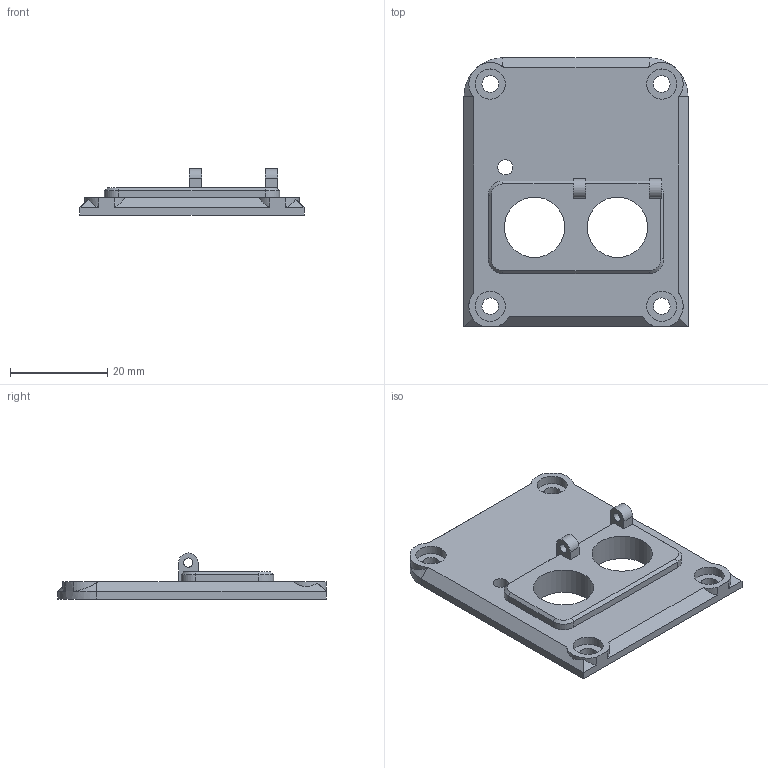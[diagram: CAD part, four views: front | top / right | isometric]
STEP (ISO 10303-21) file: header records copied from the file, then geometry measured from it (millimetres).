
FILE_DESCRIPTION(('Open CASCADE Model'),'2;1');
FILE_NAME('Open CASCADE Shape Model','2026-10-09T15:33:12',('Author'),( 'Open CASCADE'),'Open CASCADE STEP processor 7.9','Open CASCADE 7.9' ,'Unknown');
FILE_SCHEMA(('AUTOMOTIVE_DESIGN { 1 0 10303 214 1 1 1 1 }'));
Length unit declared in the file: millimetre
Products named in the file (1): Open CASCADE STEP translator 7.9 2
Bounding box: 46 x 55.1 x 9.5 mm (x, y, z)
Volume: 8382.1 mm3; surface area: 6050.4 mm2
Topology: 1 solids, 1 shells, 84 faces, 200 edges, 129 vertices
Faces by surface type: plane 41, cylinder 35, cone 8
Full cylindrical faces by diameter (mm): 1.7 x6, 1.9 x2, 3.1 x1, 3.4 x4, 6.2 x4, 12.4 x2
Entity records: 5527 total; most frequent: CARTESIAN_POINT 1563, DIRECTION 716, ORIENTED_EDGE 400, PCURVE 400, DEFINITIONAL_REPRESENTATION 400, LINE 354, VECTOR 354, EDGE_CURVE 200
